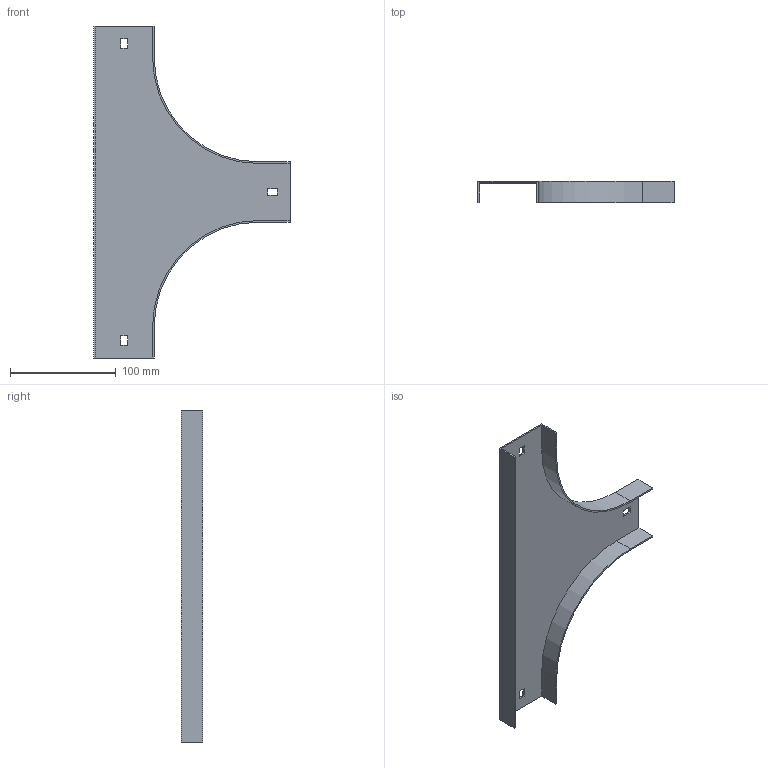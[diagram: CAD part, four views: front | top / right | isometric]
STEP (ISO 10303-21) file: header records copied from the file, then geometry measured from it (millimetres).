
FILE_DESCRIPTION (( 'STEP AP214' ), '1' );
FILE_NAME ('15G1R050.step', '2025-02-21T13:02:28', ( '' ), ( '' ), 'SwSTEP 2.0', 'SolidWorks 2023', '' );
FILE_SCHEMA (( 'AUTOMOTIVE_DESIGN' ));
Length unit declared in the file: millimetre
Products named in the file (1): 15G1R050
Bounding box: 185.5 x 20 x 314 mm (x, y, z)
Volume: 64512.9 mm3; surface area: 87694.9 mm2
Topology: 1 solids, 1 shells, 34 faces, 96 edges, 64 vertices
Faces by surface type: plane 30, cylinder 4
Entity records: 1123 total; most frequent: CARTESIAN_POINT 195, ORIENTED_EDGE 192, DIRECTION 174, EDGE_CURVE 96, LINE 88, VECTOR 88, VERTEX_POINT 64, AXIS2_PLACEMENT_3D 43
